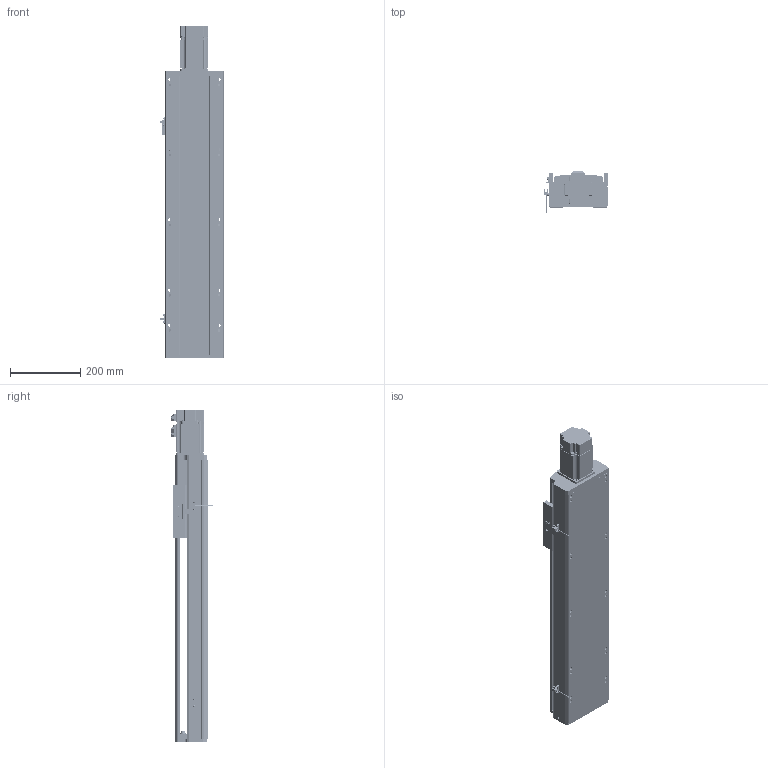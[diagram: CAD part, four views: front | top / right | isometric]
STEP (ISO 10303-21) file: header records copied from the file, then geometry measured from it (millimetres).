
FILE_DESCRIPTION (( 'STEP AP214' ), '1' );
FILE_NAME ('CTH170-550.STEP', '2019-11-25T08:54:45', ( '微软用户' ), ( '微软中国' ), 'SwSTEP 2.0', 'SolidWorks 2017', '' );
FILE_SCHEMA (( 'AUTOMOTIVE_DESIGN' ));
Length unit declared in the file: millimetre
Products named in the file (32): 支撑座^丝杠支撑座_CTH170-L10-200; B6002Z; _C-BSST2005_n; SFS2005-411-SZC; SFH2010佪裝; M3-L8囀鞠褒蹟佪; 80EMA-016A; EE-SX672峚倰換覜ん; 170萇儂啣; CT17耀郪-覜茼んえ; 170傷啣; M6-L20囀鞠褒蹟佪; EGH20CA; 蚾饜极3^CTH170-L10-200; M5-L20囀鞠褒蹟佪-BR L; M4-L10囀鞠褒蹟佪-BR L; M5-L10囀鞠褒蹟佪; 坶踡蹟簽M15x1; EGH20CA_BLOCK; 潔路遠COL15-A; EG20_RAIL; MISUMI_B7002-DB_盄俶絳砃粣; 170賑怢; BEARING_MISUMI_B7002-DB_盄俶絳砃粣; 170裔啣^CTH170-L10-200; 錨璃8^蚾饜极3_CTH170-L10-200; 錨璃2; 复件 轴承座^装配体3_CTH170-L10-200; 佪話盓傅釱^CTH170-L10-200; CTH170-550; M5-L16囀鞠褒蹟佪; 遣喳蝶15x12x8-BR L
Assembly tree (79 placements, depth 4):
  CTH170-550
    錨璃2
    170裔啣^CTH170-L10-200
    170賑怢
    EGH20CA  x2
      EG20_RAIL
      EGH20CA_BLOCK
      M5-L10囀鞠褒蹟佪
      M5-L20囀鞠褒蹟佪-BR L
    170傷啣
    170萇儂啣
    80EMA-016A
    SFS2005-411-SZC
      SFH2010佪裝
    _C-BSST2005_n
    佪話盓傅釱^CTH170-L10-200
      B6002Z
      支撑座^丝杠支撑座_CTH170-L10-200
      遣喳蝶15x12x8-BR L  x2
      M5-L16囀鞠褒蹟佪  x2
    蚾饜极3^CTH170-L10-200
      复件 轴承座^装配体3_CTH170-L10-200
      錨璃8^蚾饜极3_CTH170-L10-200
      MISUMI_B7002-DB_盄俶絳砃粣
        BEARING_MISUMI_B7002-DB_盄俶絳砃粣  x2
      潔路遠COL15-A  x2
      坶踡蹟簽M15x1
      M5-L16囀鞠褒蹟佪  x6
      M4-L10囀鞠褒蹟佪-BR L  x4
    遣喳蝶15x12x8-BR L  x2
    M6-L20囀鞠褒蹟佪  x4
    M4-L10囀鞠褒蹟佪-BR L  x10
    M5-L16囀鞠褒蹟佪  x4
    CT17耀郪-覜茼んえ
    EE-SX672峚倰換覜ん  x2
    M3-L8囀鞠褒蹟佪  x4
Bounding box: 183.7 x 117.95 x 946 mm (x, y, z)
Volume: 5720583.5 mm3; surface area: 1713338.6 mm2
Topology: 91 solids, 92 shells, 5609 faces, 14711 edges, 9382 vertices
Faces by surface type: plane 3114, cylinder 1488, cone 625, bspline 342, torus 40
Entity records: 100072 total; most frequent: CARTESIAN_POINT 21281, ORIENTED_EDGE 14380, DIRECTION 14001, EDGE_CURVE 7190, AXIS2_PLACEMENT_3D 4872, VERTEX_POINT 4674, VECTOR 4257, LINE 4257
